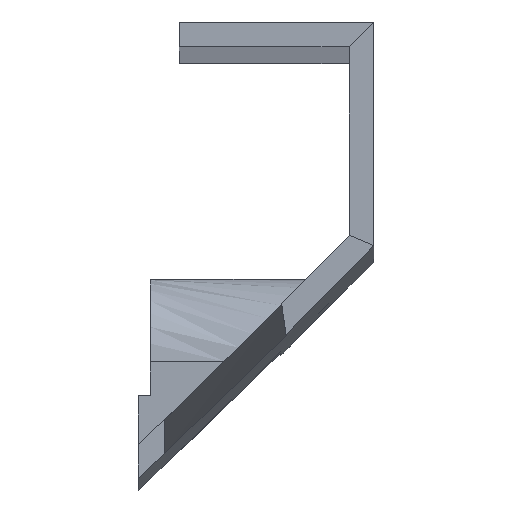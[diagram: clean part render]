
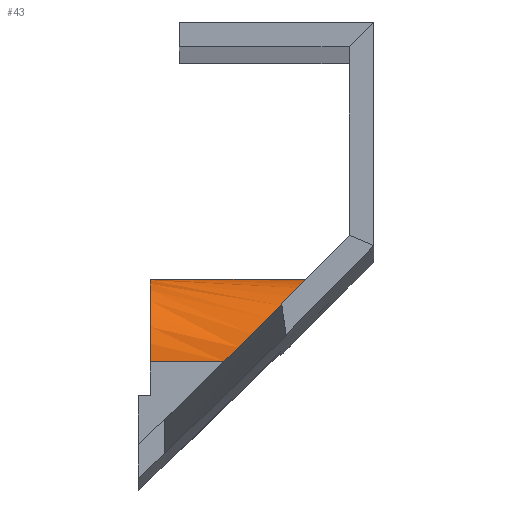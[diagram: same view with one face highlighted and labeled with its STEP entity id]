
A CAD part, top view. The second image highlights one B-rep face of the part: STEP entity #43.
In plain terms, the highlighted free-form (B-spline) face has degree [2, 1] with [3, 2] control points.
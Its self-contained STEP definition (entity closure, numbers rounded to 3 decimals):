
#43=ADVANCED_FACE('',(#89),#721,.T.);
#89=FACE_OUTER_BOUND('',#135,.T.);
#135=EDGE_LOOP('',(#316,#317,#318,#319));
#316=ORIENTED_EDGE('',*,*,#451,.F.);
#317=ORIENTED_EDGE('',*,*,#455,.F.);
#318=ORIENTED_EDGE('',*,*,#454,.T.);
#319=ORIENTED_EDGE('',*,*,#488,.F.);
#451=EDGE_CURVE('',#667,#694,#533,.T.);
#454=EDGE_CURVE('',#669,#697,#534,.T.);
#455=EDGE_CURVE('',#669,#667,#589,.T.);
#488=EDGE_CURVE('',#694,#697,#545,.T.);
#533=(
BOUNDED_CURVE()
B_SPLINE_CURVE(1,(#5769,#5770),.UNSPECIFIED.,.F.,.F.)
B_SPLINE_CURVE_WITH_KNOTS((2,2),(40.097,40.815),
 .UNSPECIFIED.)
CURVE()
GEOMETRIC_REPRESENTATION_ITEM()
RATIONAL_B_SPLINE_CURVE((1.,1.))
REPRESENTATION_ITEM('')
);
#534=(
BOUNDED_CURVE()
B_SPLINE_CURVE(1,(#5779,#5780),.UNSPECIFIED.,.F.,.F.)
B_SPLINE_CURVE_WITH_KNOTS((2,2),(37.838,40.709),
 .UNSPECIFIED.)
CURVE()
GEOMETRIC_REPRESENTATION_ITEM()
RATIONAL_B_SPLINE_CURVE((1.,1.))
REPRESENTATION_ITEM('')
);
#545=(
BOUNDED_CURVE()
B_SPLINE_CURVE(2,(#6013,#6014,#6015),.UNSPECIFIED.,.F.,.F.)
B_SPLINE_CURVE_WITH_KNOTS((3,3),(0.,40.),.UNSPECIFIED.)
CURVE()
GEOMETRIC_REPRESENTATION_ITEM()
RATIONAL_B_SPLINE_CURVE((1.,0.707,1.))
REPRESENTATION_ITEM('')
);
#589=B_SPLINE_CURVE_WITH_KNOTS('',3,(#5781,#5782,#5783,#5784,#5785,#5786,
#5787,#5788,#5789,#5790,#5791,#5792,#5793,#5794,#5795,#5796,#5797,#5798,
#5799,#5800,#5801,#5802,#5803,#5804,#5805,#5806,#5807,#5808,#5809,#5810,
#5811,#5812,#5813,#5814,#5815,#5816,#5817,#5818,#5819,#5820,#5821,#5822,
#5823,#5824,#5825,#5826,#5827,#5828,#5829,#5830,#5831,#5832,#5833,#5834),
 .UNSPECIFIED.,.F.,.F.,(4,2,2,2,2,2,2,2,2,2,2,2,2,2,2,2,2,2,2,3,2,2,2,3,
2,4),(0.,0.154,0.308,0.616,1.231,
2.463,3.079,3.695,4.31,4.926,
5.541,6.156,7.386,8.616,9.846,
11.066,12.286,14.726,17.163,19.601,
22.418,25.235,28.052,30.868,34.564,
38.259),.UNSPECIFIED.);
#667=VERTEX_POINT('',#4202);
#669=VERTEX_POINT('',#4204);
#694=VERTEX_POINT('',#4229);
#697=VERTEX_POINT('',#4232);
#721=(
BOUNDED_SURFACE()
B_SPLINE_SURFACE(2,1,((#3682,#3683),(#3684,#3685),(#3686,#3687)),
 .UNSPECIFIED.,.F.,.F.,.F.)
B_SPLINE_SURFACE_WITH_KNOTS((3,3),(2,2),(0.,40.),(-404.,
444.936),.UNSPECIFIED.)
GEOMETRIC_REPRESENTATION_ITEM()
RATIONAL_B_SPLINE_SURFACE(((1.,1.),(0.707,0.707),
(1.,1.)))
REPRESENTATION_ITEM('')
SURFACE()
);
#3682=CARTESIAN_POINT('',(73337.319,16728.189,349.085));
#3683=CARTESIAN_POINT('',(72488.384,16728.189,349.085));
#3684=CARTESIAN_POINT('',(73337.319,16748.189,349.085));
#3685=CARTESIAN_POINT('',(72488.384,16748.189,349.085));
#3686=CARTESIAN_POINT('',(73337.319,16748.189,329.085));
#3687=CARTESIAN_POINT('',(72488.384,16748.189,329.085));
#4202=CARTESIAN_POINT('',(72509.28,16728.189,349.085));
#4204=CARTESIAN_POINT('',(72529.319,16748.189,329.085));
#4229=CARTESIAN_POINT('',(72491.384,16728.189,349.085));
#4232=CARTESIAN_POINT('',(72491.384,16748.189,329.085));
#5769=CARTESIAN_POINT('',(72509.28,16728.189,349.085));
#5770=CARTESIAN_POINT('',(72491.384,16728.189,349.085));
#5779=CARTESIAN_POINT('',(72529.319,16748.189,329.085));
#5780=CARTESIAN_POINT('',(72491.384,16748.189,329.085));
#5781=CARTESIAN_POINT('',(72529.319,16748.189,329.085));
#5782=CARTESIAN_POINT('',(72529.319,16748.189,329.136));
#5783=CARTESIAN_POINT('',(72529.319,16748.189,329.188));
#5784=CARTESIAN_POINT('',(72529.318,16748.188,329.29));
#5785=CARTESIAN_POINT('',(72529.318,16748.188,329.341));
#5786=CARTESIAN_POINT('',(72529.315,16748.185,329.495));
#5787=CARTESIAN_POINT('',(72529.313,16748.183,329.598));
#5788=CARTESIAN_POINT('',(72529.304,16748.174,329.905));
#5789=CARTESIAN_POINT('',(72529.294,16748.164,330.11));
#5790=CARTESIAN_POINT('',(72529.257,16748.126,330.724));
#5791=CARTESIAN_POINT('',(72529.22,16748.089,331.131));
#5792=CARTESIAN_POINT('',(72529.146,16748.014,331.737));
#5793=CARTESIAN_POINT('',(72529.118,16747.986,331.939));
#5794=CARTESIAN_POINT('',(72529.057,16747.924,332.34));
#5795=CARTESIAN_POINT('',(72529.024,16747.89,332.54));
#5796=CARTESIAN_POINT('',(72528.951,16747.816,332.937));
#5797=CARTESIAN_POINT('',(72528.912,16747.776,333.134));
#5798=CARTESIAN_POINT('',(72528.827,16747.691,333.527));
#5799=CARTESIAN_POINT('',(72528.783,16747.645,333.722));
#5800=CARTESIAN_POINT('',(72528.687,16747.549,334.109));
#5801=CARTESIAN_POINT('',(72528.637,16747.498,334.301));
#5802=CARTESIAN_POINT('',(72528.531,16747.391,334.682));
#5803=CARTESIAN_POINT('',(72528.476,16747.335,334.871));
#5804=CARTESIAN_POINT('',(72528.302,16747.159,335.434));
#5805=CARTESIAN_POINT('',(72528.176,16747.031,335.803));
#5806=CARTESIAN_POINT('',(72527.905,16746.757,336.527));
#5807=CARTESIAN_POINT('',(72527.761,16746.611,336.882));
#5808=CARTESIAN_POINT('',(72527.455,16746.301,337.576));
#5809=CARTESIAN_POINT('',(72527.293,16746.138,337.916));
#5810=CARTESIAN_POINT('',(72526.956,16745.797,338.577));
#5811=CARTESIAN_POINT('',(72526.781,16745.62,338.898));
#5812=CARTESIAN_POINT('',(72526.417,16745.252,339.525));
#5813=CARTESIAN_POINT('',(72526.228,16745.061,339.831));
#5814=CARTESIAN_POINT('',(72525.642,16744.47,340.723));
#5815=CARTESIAN_POINT('',(72525.228,16744.052,341.285));
#5816=CARTESIAN_POINT('',(72524.36,16743.177,342.345));
#5817=CARTESIAN_POINT('',(72523.906,16742.721,342.843));
#5818=CARTESIAN_POINT('',(72522.968,16741.778,343.775));
#5819=CARTESIAN_POINT('',(72522.483,16741.29,344.21));
#5820=CARTESIAN_POINT('',(72521.986,16740.792,344.615));
#5821=CARTESIAN_POINT('',(72521.412,16740.215,345.083));
#5822=CARTESIAN_POINT('',(72520.82,16739.623,345.51));
#5823=CARTESIAN_POINT('',(72519.612,16738.415,346.288));
#5824=CARTESIAN_POINT('',(72518.995,16737.798,346.639));
#5825=CARTESIAN_POINT('',(72517.743,16736.549,347.267));
#5826=CARTESIAN_POINT('',(72517.106,16735.916,347.545));
#5827=CARTESIAN_POINT('',(72515.82,16734.638,348.029));
#5828=CARTESIAN_POINT('',(72515.17,16733.993,348.236));
#5829=CARTESIAN_POINT('',(72514.514,16733.344,348.409));
#5830=CARTESIAN_POINT('',(72513.654,16732.493,348.636));
#5831=CARTESIAN_POINT('',(72512.785,16731.635,348.805));
#5832=CARTESIAN_POINT('',(72511.038,16729.914,349.029));
#5833=CARTESIAN_POINT('',(72510.159,16729.051,349.085));
#5834=CARTESIAN_POINT('',(72509.28,16728.189,349.085));
#6013=CARTESIAN_POINT('',(72491.384,16728.189,349.085));
#6014=CARTESIAN_POINT('',(72491.384,16748.189,349.085));
#6015=CARTESIAN_POINT('',(72491.384,16748.189,329.085));
